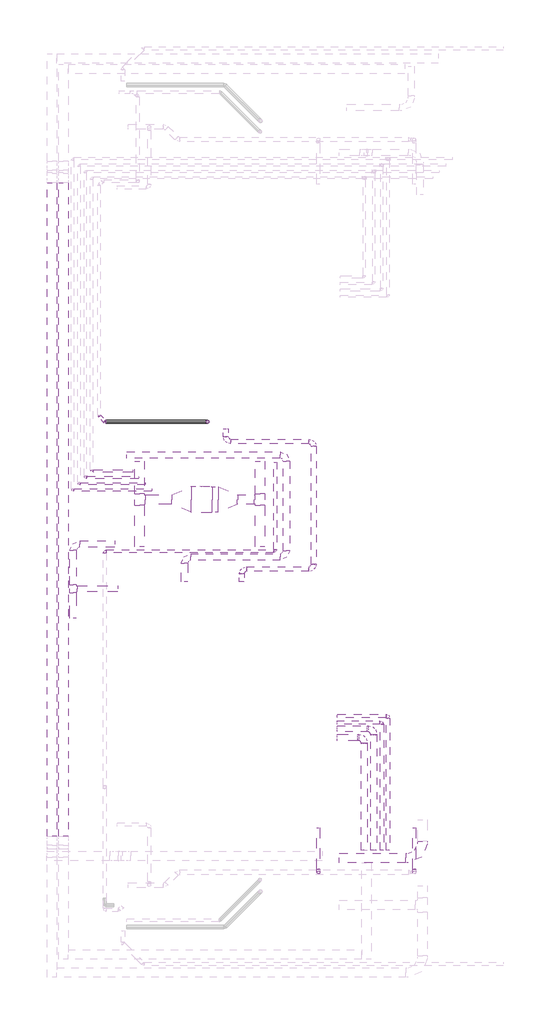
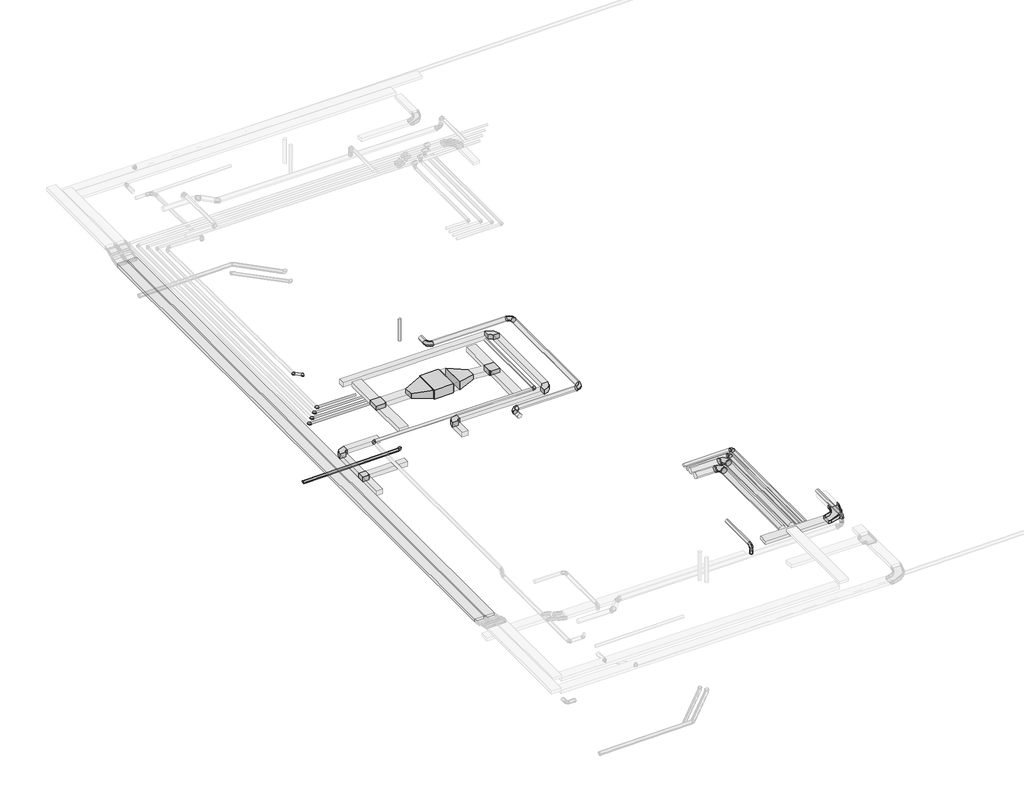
# One storey, part 2 of 4: 24 duct segments, 17 pipe segments, 16 duct fittings, 13 pipe fittings, 3 cable carrier segments, 1 cable carrier fitting, 1 proxy.
"""IFC4 building model written with IfcOpenShell, lengths in millimetres."""

from ifc_helpers import new_model, si_unit, point, frame, frame_2d, origin, place, context, project, spatial, polyline, circle_curve, trimmed, segment, composite_curve, outline, extrude, transform, mapped, element, save
from components import fc01_db58e849, m_codo_horizontal_de_canal_el_5b0e7b07, duct_fitting_e8ecb067, duct_fitting_4802cc83, apt_33348139, ext_db029bdf, ext_95de42ea, m_codo_rectangular_radio_apt_1_w_a605e9b7, m_codo_redondo_ext_1_d_fe658834, m_codo_redondo_ext_1_d_96ea52f9, pipe_fitting_7b861d32, pipe_fitting_a8c499ec, pipe_fitting_f5d6ed74, pipe_fitting_3b77712d, pipe_fitting_2358b14d, pipe_fitting_3a68447e, pipe_fitting_87aeffad

model = new_model("IFC4")

# Units and contexts
model_context = context("Model", 3, world=origin())
ifc_project = project(units=[si_unit("LENGTHUNIT", "METRE", prefix="MILLI")], contexts=[model_context])

# Site, building, storey
site = spatial("IfcSite", under=ifc_project)
building = spatial("IfcBuilding", under=site)
storey = spatial("IfcBuildingStorey", under=building, Name="Nivell 05 P05_PP", Elevation=26160.0)

# Proxy
placement = place(None, origin())
fc01_shape = fc01_db58e849(model_context)
element("IfcBuildingElementProxy", 1, Name="ARC_MDL_ME_UI_FC_ConducteSostre : FC01", ObjectType="ARC_MDL_ME_UI_FC_ConducteSostre : FC01", at=placement, inside=storey, context=model_context, shape_type="MappedRepresentation", body=[
    mapped(fc01_shape, transform((9681.3112506, -4290.0827616, 29269.6198525), x_axis=(-5.108879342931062e-05, -0.9999999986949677, 0.0), y_axis=(0.9999999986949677, -5.108879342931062e-05, 0.0), z_axis=(0.0, 0.0, 1.0))),
])

# Cable carrier fitting
m_codo_horizontal_de_canal_el_shape = m_codo_horizontal_de_canal_el_5b0e7b07(model_context)
element("IfcCableCarrierFitting", 2, ObjectType="M_Codo horizontal de canal : EL", at=placement, inside=storey, context=model_context, shape_type="MappedRepresentation", body=[
    mapped(m_codo_horizontal_de_canal_el_shape, transform((16614.6624278, -15521.1304394, 29260.0), x_axis=(1.0, 0.0, 0.0), y_axis=(0.0, 1.0, 0.0), z_axis=(0.0, 0.0, 1.0))),
])

# Cable carrier segments
element("IfcCableCarrierSegment", 3, ObjectType="EL", at=placement, inside=storey, context=model_context, shape_type="SweptSolid", body=[
    extrude(outline(polyline([(16089.6624278, -15371.1304394), (16089.6624278, -15671.1304394), (14011.0671065, -15671.1304394), (14011.0671065, -15371.1304394), (16089.6624278, -15371.1304394)])), frame((0.0, 0.0, 29210.0), z_axis=(0.0, 0.0, 1.0), x_axis=(1.0, 0.0, 0.0)), (0.0, 0.0, 1.0), 100.0),
])
element("IfcCableCarrierSegment", 4, ObjectType="EL", at=placement, inside=storey, context=model_context, shape_type="SweptSolid", body=[
    extrude(outline(polyline([(5507.0671065, -14848.6486184), (5207.0671065, -14848.6486184), (5207.0671065, 5634.423571), (5507.0671065, 5634.423571), (5507.0671065, -14848.6486184)])), frame((0.0, 0.0, 29210.0), z_axis=(0.0, 0.0, 1.0), x_axis=(1.0, 0.0, 0.0)), (0.0, 0.0, 1.0), 100.0),
])
element("IfcCableCarrierSegment", 5, ObjectType="EL", at=placement, inside=storey, context=model_context, shape_type="SweptSolid", body=[
    extrude(outline(polyline([(4858.2381883, 5634.423571), (5158.2381883, 5634.423571), (5158.2381883, -14848.6486184), (4858.2381883, -14848.6486184), (4858.2381883, 5634.423571)])), frame((0.0, 0.0, 29210.0), z_axis=(0.0, 0.0, 1.0), x_axis=(1.0, 0.0, 0.0)), (0.0, 0.0, 1.0), 100.0),
])

# Duct fittings
duct_fitting_shape = duct_fitting_e8ecb067(model_context)
element("IfcDuctFitting", 6, ObjectType="M_Transición rectangular - Ángulo : EXT_45 graus", at=placement, inside=storey, context=model_context, shape_type="MappedRepresentation", body=[
    mapped(duct_fitting_shape, transform((9366.311258, -4289.9287549, 29427.1198525), x_axis=(-0.9999999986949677, 5.108879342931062e-05, 0.0), y_axis=(-5.108879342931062e-05, -0.9999999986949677, 0.0), z_axis=(0.0, 0.0, 1.0))),
])
duct_fitting_2_shape = duct_fitting_4802cc83(model_context)
element("IfcDuctFitting", 7, ObjectType="M_Transición rectangular - Ángulo : EXT_45 graus", at=placement, inside=storey, context=model_context, shape_type="MappedRepresentation", body=[
    mapped(duct_fitting_2_shape, transform((10216.57728, -4290.2068024, 29427.1198525), x_axis=(0.9999999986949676, -5.1088793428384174e-05, 0.0), y_axis=(5.1088793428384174e-05, 0.9999999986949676, 0.0), z_axis=(0.0, 0.0, 1.0))),
])
apt_shape = apt_33348139(model_context)
element("IfcDuctFitting", 8, ObjectType="M_Te rectangular : APT", at=placement, inside=storey, context=model_context, shape_type="MappedRepresentation", body=[
    mapped(apt_shape, transform((5665.7790997, -7084.7059364, 29310.0), x_axis=(0.0, 1.0, 0.0), y_axis=(-1.0, 0.0, 0.0), z_axis=(0.0, 0.0, 1.0))),
])
ext_shape = ext_db029bdf(model_context)
element("IfcDuctFitting", 9, ObjectType="M_Toma de derivación redonda : EXT", at=placement, inside=storey, context=model_context, shape_type="MappedRepresentation", body=[
    mapped(ext_shape, transform((13350.5896993, -15972.9719502, 29340.0), x_axis=(0.0, 0.0, 1.0), y_axis=(-1.0, 0.0, 0.0), z_axis=(0.0, -1.0, 0.0))),
])
ext_2_shape = ext_95de42ea(model_context)
element("IfcDuctFitting", 10, ObjectType="M_Te rectangular : EXT", at=placement, inside=storey, context=model_context, shape_type="MappedRepresentation", body=[
    mapped(ext_2_shape, transform((11523.311255, -4289.9524808, 29325.8305344), x_axis=(0.0, -1.0, 0.0), y_axis=(1.0, 0.0, 0.0), z_axis=(0.0, 0.0, 1.0))),
])
element("IfcDuctFitting", 11, ObjectType="M_Te rectangular : EXT", at=placement, inside=storey, context=model_context, shape_type="MappedRepresentation", body=[
    mapped(ext_2_shape, transform((7746.1618177, -4289.990201, 29427.1198525), x_axis=(0.0, 1.0, 0.0), y_axis=(-1.0, 0.0, 0.0), z_axis=(0.0, 0.0, 1.0))),
])
m_codo_rectangular_radio_apt_1_w_shape = m_codo_rectangular_radio_apt_1_w_a605e9b7(model_context)
element("IfcDuctFitting", 12, ObjectType="M_Codo rectangular - Radio : APT_1 W", at=placement, inside=storey, context=model_context, shape_type="MappedRepresentation", body=[
    mapped(m_codo_rectangular_radio_apt_1_w_shape, transform((5665.7790997, -5684.7059364, 29310.0), x_axis=(-1.0, 0.0, 0.0), y_axis=(0.0, -1.0, 0.0), z_axis=(0.0, 0.0, 1.0))),
])
element("IfcDuctFitting", 13, ObjectType="M_Codo rectangular - Radio : EXT_1 W", at=placement, inside=storey, context=model_context, shape_type="MappedRepresentation", body=[
    mapped(m_codo_rectangular_radio_apt_1_w_shape, transform((12351.1206995, -6088.8306037, 29435.0), x_axis=(1.0, 0.0, 0.0), y_axis=(0.0, 1.0, 0.0), z_axis=(0.0, 0.0, 1.0))),
])
element("IfcDuctFitting", 14, ObjectType="M_Codo rectangular - Radio : EXT_1 W", at=placement, inside=storey, context=model_context, shape_type="MappedRepresentation", body=[
    mapped(m_codo_rectangular_radio_apt_1_w_shape, transform((9151.1206995, -6088.8306037, 29435.0), x_axis=(-1.0, 0.0, 0.0), y_axis=(0.0, -1.0, 0.0), z_axis=(0.0, 0.0, 1.0))),
])
element("IfcDuctFitting", 15, ObjectType="M_Codo rectangular - Radio : EXT_1 W", at=placement, inside=storey, context=model_context, shape_type="MappedRepresentation", body=[
    mapped(m_codo_rectangular_radio_apt_1_w_shape, transform((12351.1206995, -2888.8306037, 29435.0), x_axis=(0.0, 1.0, 0.0), y_axis=(-1.0, 0.0, 0.0), z_axis=(0.0, 0.0, 1.0))),
])
m_codo_redondo_ext_1_d_shape = m_codo_redondo_ext_1_d_fe658834(model_context)
element("IfcDuctFitting", 16, ObjectType="M_Codo redondo : EXT_1 D", at=placement, inside=storey, context=model_context, shape_type="MappedRepresentation", body=[
    mapped(m_codo_redondo_ext_1_d_shape, transform((10951.1206995, -6468.8306037, 29435.0), x_axis=(-1.0, 0.0, 0.0), y_axis=(0.0, -1.0, 0.0), z_axis=(0.0, 0.0, 1.0))),
])
element("IfcDuctFitting", 17, ObjectType="M_Codo redondo : EXT_1 D", at=placement, inside=storey, context=model_context, shape_type="MappedRepresentation", body=[
    mapped(m_codo_redondo_ext_1_d_shape, transform((13201.1206995, -6468.8306037, 29435.0), x_axis=(1.0, 0.0, 0.0), y_axis=(0.0, 1.0, 0.0), z_axis=(0.0, 0.0, 1.0))),
])
element("IfcDuctFitting", 18, ObjectType="M_Codo redondo : EXT_1 D", at=placement, inside=storey, context=model_context, shape_type="MappedRepresentation", body=[
    mapped(m_codo_redondo_ext_1_d_shape, transform((13201.1206995, -2468.8306037, 29435.0), x_axis=(0.0, 1.0, 0.0), y_axis=(-1.0, 0.0, 0.0), z_axis=(0.0, 0.0, 1.0))),
])
element("IfcDuctFitting", 19, ObjectType="M_Codo redondo : EXT_1 D", at=placement, inside=storey, context=model_context, shape_type="MappedRepresentation", body=[
    mapped(m_codo_redondo_ext_1_d_shape, transform((10451.1206995, -2468.8306037, 29435.0), x_axis=(0.0, -1.0, 0.0), y_axis=(1.0, 0.0, 0.0), z_axis=(0.0, 0.0, 1.0))),
])
m_codo_redondo_ext_1_d_2_shape = m_codo_redondo_ext_1_d_96ea52f9(model_context)
element("IfcDuctFitting", 20, ObjectType="M_Codo redondo : EXT_1 D", at=placement, inside=storey, context=model_context, shape_type="MappedRepresentation", body=[
    mapped(m_codo_redondo_ext_1_d_2_shape, transform((16350.5896993, -15972.9719502, 29610.0), x_axis=(0.0, -1.0, 0.0), y_axis=(0.0, 0.0, 1.0), z_axis=(-1.0, 0.0, 0.0))),
])
element("IfcDuctFitting", 21, ObjectType="M_Codo redondo : EXT_1 D", at=placement, inside=storey, context=model_context, shape_type="MappedRepresentation", body=[
    mapped(m_codo_redondo_ext_1_d_2_shape, transform((13350.5896993, -15972.9719502, 29610.0), x_axis=(0.0, -1.0, 0.0), y_axis=(0.0, 0.0, 1.0), z_axis=(-1.0, 0.0, 0.0))),
])

# Duct segments
element("IfcDuctSegment", 22, ObjectType="APT_Fibra de vidre rígida", at=placement, inside=storey, context=model_context, shape_type="SweptSolid", body=[
    extrude(outline(polyline([(7065.7790997, -6984.7059364), (7065.7790997, -7184.7059364), (5790.7790997, -7184.7059364), (5790.7790997, -6984.7059364), (7065.7790997, -6984.7059364)])), frame((0.0, 0.0, 29235.0), z_axis=(0.0, 0.0, 1.0), x_axis=(1.0, 0.0, 0.0)), (0.0, 0.0, 1.0), 150.0),
])
element("IfcDuctSegment", 23, ObjectType="APT_Fibra de vidre rígida", at=placement, inside=storey, context=model_context, shape_type="SweptSolid", body=[
    extrude(outline(polyline([(5765.7790997, -6959.7059364), (5565.7790997, -6959.7059364), (5565.7790997, -5884.7059364), (5765.7790997, -5884.7059364), (5765.7790997, -6959.7059364)])), frame((0.0, 0.0, 29235.0), z_axis=(0.0, 0.0, 1.0), x_axis=(1.0, 0.0, 0.0)), (0.0, 0.0, 1.0), 150.0),
])
element("IfcDuctSegment", 24, ObjectType="APT_Fibra de vidre rígida", at=placement, inside=storey, context=model_context, shape_type="SweptSolid", body=[
    extrude(outline(polyline([(5865.7790997, -5784.7059364), (5865.7790997, -5584.7059364), (6965.7790997, -5584.7059364), (6965.7790997, -5784.7059364), (5865.7790997, -5784.7059364)])), frame((0.0, 0.0, 29235.0), z_axis=(0.0, 0.0, 1.0), x_axis=(1.0, 0.0, 0.0)), (0.0, 0.0, 1.0), 150.0),
])
element("IfcDuctSegment", 25, ObjectType="APT_Fibra de vidre rígida", at=placement, inside=storey, context=model_context, shape_type="SweptSolid", body=[
    extrude(outline(polyline([(5565.7790997, -7209.7059364), (5765.7790997, -7209.7059364), (5765.7790997, -8009.7059364), (5565.7790997, -8009.7059364), (5565.7790997, -7209.7059364)])), frame((0.0, 0.0, 29235.0), z_axis=(0.0, 0.0, 1.0), x_axis=(1.0, 0.0, 0.0)), (0.0, 0.0, 1.0), 150.0),
])
element("IfcDuctSegment", 26, ObjectType="EXT_Fibra de vidre rígida", at=placement, inside=storey, context=model_context, shape_type="SweptSolid", body=[
    extrude(outline(polyline([(9351.1206995, -6188.8306037), (9351.1206995, -5988.8306037), (12151.1206995, -5988.8306037), (12151.1206995, -6188.8306037), (9351.1206995, -6188.8306037)])), frame((0.0, 0.0, 29360.0), z_axis=(0.0, 0.0, 1.0), x_axis=(1.0, 0.0, 0.0)), (0.0, 0.0, 1.0), 150.0),
])
element("IfcDuctSegment", 27, ObjectType="EXT_Fibra de vidre rígida", at=placement, inside=storey, context=model_context, shape_type="SweptSolid", body=[
    extrude(outline(polyline([(12251.1206995, -3088.8306037), (12451.1206995, -3088.8306037), (12451.1206995, -5888.8306037), (12251.1206995, -5888.8306037), (12251.1206995, -3088.8306037)])), frame((0.0, 0.0, 29360.0), z_axis=(0.0, 0.0, 1.0), x_axis=(1.0, 0.0, 0.0)), (0.0, 0.0, 1.0), 150.0),
])
element("IfcDuctSegment", 28, ObjectType="EXT_Fibra de vidre rígida", at=placement, inside=storey, context=model_context, shape_type="SweptSolid", body=[
    extrude(outline(polyline([(9251.1206995, -6868.8306037), (9051.1206995, -6868.8306037), (9051.1206995, -6288.8306037), (9251.1206995, -6288.8306037), (9251.1206995, -6868.8306037)])), frame((0.0, 0.0, 29360.0), z_axis=(0.0, 0.0, 1.0), x_axis=(1.0, 0.0, 0.0)), (0.0, 0.0, 1.0), 150.0),
])
element("IfcDuctSegment", 29, ObjectType="EXT_Fibra de vidre rígida", at=placement, inside=storey, context=model_context, shape_type="SweptSolid", body=[
    extrude(outline(polyline([(7351.1206995, -2988.8306037), (7351.1206995, -2788.8306037), (12151.1206995, -2788.8306037), (12151.1206995, -2988.8306037), (7351.1206995, -2988.8306037)])), frame((0.0, 0.0, 29360.0), z_axis=(0.0, 0.0, 1.0), x_axis=(1.0, 0.0, 0.0)), (0.0, 0.0, 1.0), 150.0),
])
element("IfcDuctSegment", 30, ObjectType="EXT_Acer Galvanitzat - Rígid", at=placement, inside=storey, context=model_context, shape_type="SweptSolid", body=[
    extrude(outline(composite_curve([segment(trimmed(circle_curve(frame_2d((29435.0, 10951.1206995)), 75.0), [point((29435.0, 11026.1206995))], [point((29510.0, 10951.1206995))], False, "CARTESIAN"), True, "CONTINUOUS"), segment(trimmed(circle_curve(frame_2d((29435.0, 10951.1206995)), 75.0), [point((29510.0, 10951.1206995))], [point((29435.0, 10876.1206995))], False, "CARTESIAN"), True, "CONTINUOUS"), segment(trimmed(circle_curve(frame_2d((29435.0, 10951.1206995)), 75.0), [point((29435.0, 10876.1206995))], [point((29360.0, 10951.1206995))], False, "CARTESIAN"), True, "CONTINUOUS"), segment(trimmed(circle_curve(frame_2d((29435.0, 10951.1206995)), 75.0), [point((29360.0, 10951.1206995))], [point((29435.0, 11026.1206995))], False, "CARTESIAN"), True, "CONTINUOUS")], self_intersect=False)), frame((0.0, -6868.8306037, 0.0), z_axis=(0.0, 1.0, 0.0), x_axis=(0.0, 0.0, 1.0)), (0.0, 0.0, 1.0), 250.0),
])
element("IfcDuctSegment", 31, ObjectType="EXT_Acer Galvanitzat - Rígid", at=placement, inside=storey, context=model_context, shape_type="SweptSolid", body=[
    extrude(outline(composite_curve([segment(trimmed(circle_curve(frame_2d((-6468.8306037, 29435.0)), 75.0), [point((-6543.8306037, 29435.0))], [point((-6468.8306037, 29510.0))], False, "CARTESIAN"), True, "CONTINUOUS"), segment(trimmed(circle_curve(frame_2d((-6468.8306037, 29435.0)), 75.0), [point((-6468.8306037, 29510.0))], [point((-6393.8306037, 29435.0))], False, "CARTESIAN"), True, "CONTINUOUS"), segment(trimmed(circle_curve(frame_2d((-6468.8306037, 29435.0)), 75.0), [point((-6393.8306037, 29435.0))], [point((-6468.8306037, 29360.0))], False, "CARTESIAN"), True, "CONTINUOUS"), segment(trimmed(circle_curve(frame_2d((-6468.8306037, 29435.0)), 75.0), [point((-6468.8306037, 29360.0))], [point((-6543.8306037, 29435.0))], False, "CARTESIAN"), True, "CONTINUOUS")], self_intersect=False)), frame((11101.1206995, 0.0, 0.0), z_axis=(1.0, 0.0, 0.0), x_axis=(0.0, 1.0, 0.0)), (0.0, 0.0, 1.0), 1950.0),
])
element("IfcDuctSegment", 32, ObjectType="EXT_Acer Galvanitzat - Rígid", at=placement, inside=storey, context=model_context, shape_type="SweptSolid", body=[
    extrude(outline(composite_curve([segment(trimmed(circle_curve(frame_2d((29435.0, 13201.1206995)), 75.0), [point((29435.0, 13276.1206995))], [point((29510.0, 13201.1206995))], False, "CARTESIAN"), True, "CONTINUOUS"), segment(trimmed(circle_curve(frame_2d((29435.0, 13201.1206995)), 75.0), [point((29510.0, 13201.1206995))], [point((29435.0, 13126.1206995))], False, "CARTESIAN"), True, "CONTINUOUS"), segment(trimmed(circle_curve(frame_2d((29435.0, 13201.1206995)), 75.0), [point((29435.0, 13126.1206995))], [point((29360.0, 13201.1206995))], False, "CARTESIAN"), True, "CONTINUOUS"), segment(trimmed(circle_curve(frame_2d((29435.0, 13201.1206995)), 75.0), [point((29360.0, 13201.1206995))], [point((29435.0, 13276.1206995))], False, "CARTESIAN"), True, "CONTINUOUS")], self_intersect=False)), frame((0.0, -6318.8306037, 0.0), z_axis=(0.0, 1.0, 0.0), x_axis=(0.0, 0.0, 1.0)), (0.0, 0.0, 1.0), 3700.0),
])
element("IfcDuctSegment", 33, ObjectType="EXT_Acer Galvanitzat - Rígid", at=placement, inside=storey, context=model_context, shape_type="SweptSolid", body=[
    extrude(outline(composite_curve([segment(trimmed(circle_curve(frame_2d((-2468.8306037, 29435.0)), 75.0), [point((-2393.8306037, 29435.0))], [point((-2468.8306037, 29360.0))], False, "CARTESIAN"), True, "CONTINUOUS"), segment(trimmed(circle_curve(frame_2d((-2468.8306037, 29435.0)), 75.0), [point((-2468.8306037, 29360.0))], [point((-2543.8306037, 29435.0))], False, "CARTESIAN"), True, "CONTINUOUS"), segment(trimmed(circle_curve(frame_2d((-2468.8306037, 29435.0)), 75.0), [point((-2543.8306037, 29435.0))], [point((-2468.8306037, 29510.0))], False, "CARTESIAN"), True, "CONTINUOUS"), segment(trimmed(circle_curve(frame_2d((-2468.8306037, 29435.0)), 75.0), [point((-2468.8306037, 29510.0))], [point((-2393.8306037, 29435.0))], False, "CARTESIAN"), True, "CONTINUOUS")], self_intersect=False)), frame((10601.1206995, 0.0, 0.0), z_axis=(1.0, 0.0, 0.0), x_axis=(0.0, 1.0, 0.0)), (0.0, 0.0, 1.0), 2450.0),
])
element("IfcDuctSegment", 34, ObjectType="EXT_Acer Galvanitzat - Rígid", at=placement, inside=storey, context=model_context, shape_type="SweptSolid", body=[
    extrude(outline(composite_curve([segment(trimmed(circle_curve(frame_2d((29435.0, 10451.1206995)), 75.0), [point((29435.0, 10526.1206995))], [point((29510.0, 10451.1206995))], False, "CARTESIAN"), True, "CONTINUOUS"), segment(trimmed(circle_curve(frame_2d((29435.0, 10451.1206995)), 75.0), [point((29510.0, 10451.1206995))], [point((29435.0, 10376.1206995))], False, "CARTESIAN"), True, "CONTINUOUS"), segment(trimmed(circle_curve(frame_2d((29435.0, 10451.1206995)), 75.0), [point((29435.0, 10376.1206995))], [point((29360.0, 10451.1206995))], False, "CARTESIAN"), True, "CONTINUOUS"), segment(trimmed(circle_curve(frame_2d((29435.0, 10451.1206995)), 75.0), [point((29360.0, 10451.1206995))], [point((29435.0, 10526.1206995))], False, "CARTESIAN"), True, "CONTINUOUS")], self_intersect=False)), frame((0.0, -2318.8306037, 0.0), z_axis=(0.0, 1.0, 0.0), x_axis=(0.0, 0.0, 1.0)), (0.0, 0.0, 1.0), 250.0),
])
element("IfcDuctSegment", 35, ObjectType="EXT_Acer Galvanitzat - Rígid", at=placement, inside=storey, context=model_context, shape_type="SweptSolid", body=[
    extrude(outline(composite_curve([segment(trimmed(circle_curve(frame_2d((29610.0, 13350.5896993)), 50.0), [point((29610.0, 13400.5896993))], [point((29660.0, 13350.5896993))], False, "CARTESIAN"), True, "CONTINUOUS"), segment(trimmed(circle_curve(frame_2d((29610.0, 13350.5896993)), 50.0), [point((29660.0, 13350.5896993))], [point((29610.0, 13300.5896993))], False, "CARTESIAN"), True, "CONTINUOUS"), segment(trimmed(circle_curve(frame_2d((29610.0, 13350.5896993)), 50.0), [point((29610.0, 13300.5896993))], [point((29560.0, 13350.5896993))], False, "CARTESIAN"), True, "CONTINUOUS"), segment(trimmed(circle_curve(frame_2d((29610.0, 13350.5896993)), 50.0), [point((29560.0, 13350.5896993))], [point((29610.0, 13400.5896993))], False, "CARTESIAN"), True, "CONTINUOUS")], self_intersect=False)), frame((0.0, -15872.9719502, 0.0), z_axis=(0.0, 1.0, 0.0), x_axis=(0.0, 0.0, 1.0)), (0.0, 0.0, 1.0), 1301.48805),
])
element("IfcDuctSegment", 36, ObjectType="EXT_Acer Galvanitzat - Rígid", at=placement, inside=storey, context=model_context, shape_type="SweptSolid", body=[
    extrude(outline(composite_curve([segment(trimmed(circle_curve(frame_2d((13350.5896993, -15972.9719502)), 50.0), [point((13300.5896993, -15972.9719502))], [point((13350.5896993, -15922.9719502))], False, "CARTESIAN"), True, "CONTINUOUS"), segment(trimmed(circle_curve(frame_2d((13350.5896993, -15972.9719502)), 50.0), [point((13350.5896993, -15922.9719502))], [point((13400.5896993, -15972.9719502))], False, "CARTESIAN"), True, "CONTINUOUS"), segment(trimmed(circle_curve(frame_2d((13350.5896993, -15972.9719502)), 50.0), [point((13400.5896993, -15972.9719502))], [point((13350.5896993, -16022.9719502))], False, "CARTESIAN"), True, "CONTINUOUS"), segment(trimmed(circle_curve(frame_2d((13350.5896993, -15972.9719502)), 50.0), [point((13350.5896993, -16022.9719502))], [point((13300.5896993, -15972.9719502))], False, "CARTESIAN"), True, "CONTINUOUS")], self_intersect=False)), frame((0.0, 0.0, 29441.6), z_axis=(0.0, 0.0, 1.0), x_axis=(1.0, 0.0, 0.0)), (0.0, 0.0, 1.0), 68.4),
])
element("IfcDuctSegment", 37, ObjectType="EXT_Acer Galvanitzat - Rígid", at=placement, inside=storey, context=model_context, shape_type="SweptSolid", body=[
    extrude(outline(composite_curve([segment(trimmed(circle_curve(frame_2d((29610.0, 16350.5896993)), 50.0), [point((29610.0, 16400.5896993))], [point((29660.0, 16350.5896993))], False, "CARTESIAN"), True, "CONTINUOUS"), segment(trimmed(circle_curve(frame_2d((29610.0, 16350.5896993)), 50.0), [point((29660.0, 16350.5896993))], [point((29610.0, 16300.5896993))], False, "CARTESIAN"), True, "CONTINUOUS"), segment(trimmed(circle_curve(frame_2d((29610.0, 16350.5896993)), 50.0), [point((29610.0, 16300.5896993))], [point((29560.0, 16350.5896993))], False, "CARTESIAN"), True, "CONTINUOUS"), segment(trimmed(circle_curve(frame_2d((29610.0, 16350.5896993)), 50.0), [point((29560.0, 16350.5896993))], [point((29610.0, 16400.5896993))], False, "CARTESIAN"), True, "CONTINUOUS")], self_intersect=False)), frame((0.0, -15872.9719502, 0.0), z_axis=(0.0, 1.0, 0.0), x_axis=(0.0, 0.0, 1.0)), (0.0, 0.0, 1.0), 1301.48805),
])
element("IfcDuctSegment", 38, ObjectType="EXT_Acer Galvanitzat - Rígid", at=placement, inside=storey, context=model_context, shape_type="SweptSolid", body=[
    extrude(outline(composite_curve([segment(trimmed(circle_curve(frame_2d((16350.5896993, -15972.9719502)), 50.0), [point((16400.5896993, -15972.9719502))], [point((16350.5896993, -16022.9719502))], False, "CARTESIAN"), True, "CONTINUOUS"), segment(trimmed(circle_curve(frame_2d((16350.5896993, -15972.9719502)), 50.0), [point((16350.5896993, -16022.9719502))], [point((16300.5896993, -15972.9719502))], False, "CARTESIAN"), True, "CONTINUOUS"), segment(trimmed(circle_curve(frame_2d((16350.5896993, -15972.9719502)), 50.0), [point((16300.5896993, -15972.9719502))], [point((16350.5896993, -15922.9719502))], False, "CARTESIAN"), True, "CONTINUOUS"), segment(trimmed(circle_curve(frame_2d((16350.5896993, -15972.9719502)), 50.0), [point((16350.5896993, -15922.9719502))], [point((16400.5896993, -15972.9719502))], False, "CARTESIAN"), True, "CONTINUOUS")], self_intersect=False)), frame((0.0, 0.0, 29365.0), z_axis=(0.0, 0.0, 1.0), x_axis=(1.0, 0.0, 0.0)), (0.0, 0.0, 1.0), 145.0),
])
element("IfcDuctSegment", 39, ObjectType="EXT_Planxa galvanitzada", at=placement, inside=storey, context=model_context, shape_type="SweptSolid", body=[
    extrude(outline(polyline([(7921.1541547, -4439.9850919), (7921.1694813, -4139.9850923), (8762.765525, -4140.0280884), (8762.7501984, -4440.028088), (7921.1541547, -4439.9850919)])), frame((0.0, 0.0, 29352.1198525), z_axis=(0.0, 0.0, 1.0), x_axis=(1.0, 0.0, 0.0)), (0.0, 0.0, 1.0), 150.0),
])
element("IfcDuctSegment", 40, ObjectType="EXT_Planxa galvanitzada", at=placement, inside=storey, context=model_context, shape_type="SweptSolid", body=[
    extrude(outline(polyline([(0.0, -300.0000001), (0.0, 0.0), (530.6650356, 0.0), (530.6650356, -300.0000001), (0.0, -300.0000001)])), frame((11341.1284595, -4439.9556573, 29251.1816596), z_axis=(0.09665101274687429, 4.254610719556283e-05, 0.9953183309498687), x_axis=(-0.9953182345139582, -0.00043814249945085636, 0.09665102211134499)), (0.0, 0.0, 1.0), 150.0),
])
element("IfcDuctSegment", 41, ObjectType="EXT_Planxa galvanitzada", at=placement, inside=storey, context=model_context, shape_type="SweptSolid", body=[
    extrude(outline(polyline([(11673.311255, -4114.9524808), (11373.311255, -4114.9524808), (11373.311255, -3089.9878585), (11673.311255, -3089.9878585), (11673.311255, -4114.9524808)])), frame((0.0, 0.0, 29250.8305344), z_axis=(0.0, 0.0, 1.0), x_axis=(1.0, 0.0, 0.0)), (0.0, 0.0, 1.0), 150.0),
])
element("IfcDuctSegment", 42, ObjectType="EXT_Planxa galvanitzada", at=placement, inside=storey, context=model_context, shape_type="SweptSolid", body=[
    extrude(outline(polyline([(11373.311255, -4464.9524808), (11673.311255, -4464.9524808), (11673.311255, -5765.0566725), (11373.311255, -5765.0566725), (11373.311255, -4464.9524808)])), frame((0.0, 0.0, 29250.8305344), z_axis=(0.0, 0.0, 1.0), x_axis=(1.0, 0.0, 0.0)), (0.0, 0.0, 1.0), 150.0),
])
element("IfcDuctSegment", 43, ObjectType="EXT_Planxa galvanitzada", at=placement, inside=storey, context=model_context, shape_type="SweptSolid", body=[
    extrude(outline(polyline([(7896.1618177, -4114.9902017), (7596.1618177, -4114.9902002), (7596.1618227, -3089.9878578), (7896.1618227, -3089.9878592), (7896.1618177, -4114.9902017)])), frame((0.0, 0.0, 29352.1198525), z_axis=(0.0, 0.0, 1.0), x_axis=(1.0, 0.0, 0.0)), (0.0, 0.0, 1.0), 150.0),
])
element("IfcDuctSegment", 44, ObjectType="EXT_Planxa galvanitzada", at=placement, inside=storey, context=model_context, shape_type="SweptSolid", body=[
    extrude(outline(polyline([(7596.1618177, -4464.9902015), (7896.1618177, -4464.9902004), (7896.1618227, -5765.056672), (7596.1618227, -5765.0566731), (7596.1618177, -4464.9902015)])), frame((0.0, 0.0, 29352.1198525), z_axis=(0.0, 0.0, 1.0), x_axis=(1.0, 0.0, 0.0)), (0.0, 0.0, 1.0), 150.0),
])
element("IfcDuctSegment", 45, ObjectType="EXT_Planxa galvanitzada", at=placement, inside=storey, context=model_context, shape_type="SweptSolid", body=[
    extrude(outline(polyline([(10023.2908097, -4690.1969281), (10023.3316807, -3890.1969292), (10216.5977155, -3890.2068029), (10216.5568445, -4690.2068019), (10023.2908097, -4690.1969281)])), frame((0.0, 0.0, 29289.6198525), z_axis=(0.0, 0.0, 1.0), x_axis=(1.0, 0.0, 0.0)), (0.0, 0.0, 1.0), 275.0),
])

# Pipe fittings
pipe_fitting_shape = pipe_fitting_7b861d32(model_context)
element("IfcPipeFitting", 46, ObjectType="M_Codo - Genérico : Estándar", at=placement, inside=storey, context=model_context, shape_type="MappedRepresentation", body=[
    mapped(pipe_fitting_shape, transform((6477.6345979, -1666.8281442, 29329.3801167), x_axis=(0.0, -0.9999500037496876, 0.00999950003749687), y_axis=(0.9999914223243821, 4.1416859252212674e-05, 0.004141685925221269), z_axis=(-0.004141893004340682, 0.009999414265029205, 0.9999414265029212))),
])
pipe_fitting_2_shape = pipe_fitting_a8c499ec(model_context)
element("IfcPipeFitting", 47, ObjectType="M_Codo - Genérico : Estándar", at=placement, inside=storey, context=model_context, shape_type="MappedRepresentation", body=[
    mapped(pipe_fitting_2_shape, transform((9883.1603089, -1851.9887948, 25614.2030013), x_axis=(0.9999500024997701, 4.9997101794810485e-05, 0.009999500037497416), y_axis=(-0.009999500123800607, 1.476482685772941e-06, 0.9999500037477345), z_axis=(4.997983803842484e-05, -0.9999999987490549, 1.976354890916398e-06))),
])
pipe_fitting_3_shape = pipe_fitting_f5d6ed74(model_context)
element("IfcPipeFitting", 48, ObjectType="M_Codo - Genérico : Estándar", at=placement, inside=storey, context=model_context, shape_type="MappedRepresentation", body=[
    mapped(pipe_fitting_3_shape, transform((6662.9562575, -1852.1498037, 29332.0009608), x_axis=(0.707071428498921, -0.7070714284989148, 0.00999950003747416), y_axis=(0.7070714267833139, 0.7071300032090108, 0.004141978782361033), z_axis=(-0.009999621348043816, 0.004141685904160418, 0.9999414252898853))),
])
pipe_fitting_4_shape = pipe_fitting_3b77712d(model_context)
element("IfcPipeFitting", 49, ObjectType="M_Codo - Genérico : Estándar", at=placement, inside=storey, context=model_context, shape_type="MappedRepresentation", body=[
    mapped(pipe_fitting_4_shape, transform((15537.4352568, -11073.2087902, 29215.0), x_axis=(1.0, 0.0, 0.0), y_axis=(0.0, 1.0, 0.0), z_axis=(0.0, 0.0, 1.0))),
])
element("IfcPipeFitting", 50, ObjectType="M_Codo - Genérico : Estándar", at=placement, inside=storey, context=model_context, shape_type="MappedRepresentation", body=[
    mapped(pipe_fitting_4_shape, transform((15337.4352568, -11273.2087902, 29215.0), x_axis=(1.0, 0.0, 0.0), y_axis=(0.0, 1.0, 0.0), z_axis=(0.0, 0.0, 1.0))),
])
pipe_fitting_5_shape = pipe_fitting_2358b14d(model_context)
element("IfcPipeFitting", 51, ObjectType="Codo 90º Soldadura a Tope SDR 11 BluePipe : Estándar", at=placement, inside=storey, context=model_context, shape_type="MappedRepresentation", body=[
    mapped(pipe_fitting_5_shape, transform((14787.4352568, -11743.2087902, 29260.0), x_axis=(1.0, 0.0, 0.0), y_axis=(0.0, 1.0, 0.0), z_axis=(0.0, 0.0, 1.0))),
])
element("IfcPipeFitting", 52, ObjectType="Codo 90º Soldadura a Tope SDR 11 BluePipe : Estándar", at=placement, inside=storey, context=model_context, shape_type="MappedRepresentation", body=[
    mapped(pipe_fitting_5_shape, transform((15087.4352568, -11473.2087902, 29260.0), x_axis=(1.0, 0.0, 0.0), y_axis=(0.0, 1.0, 0.0), z_axis=(0.0, 0.0, 1.0))),
])
pipe_fitting_6_shape = pipe_fitting_3a68447e(model_context)
element("IfcPipeFitting", 53, ObjectType="M_Codo - Genérico : Estándar", at=placement, inside=storey, context=model_context, shape_type="MappedRepresentation", body=[
    mapped(pipe_fitting_6_shape, transform((6245.7381883, -3394.9253722, 29272.5), x_axis=(0.0, -1.0, 0.0), y_axis=(1.0, 0.0, 0.0), z_axis=(0.0, 0.0, 1.0))),
])
element("IfcPipeFitting", 54, ObjectType="M_Codo - Genérico : Estándar", at=placement, inside=storey, context=model_context, shape_type="MappedRepresentation", body=[
    mapped(pipe_fitting_6_shape, transform((6045.7381883, -3594.9253722, 29272.5), x_axis=(0.0, -1.0, 0.0), y_axis=(1.0, 0.0, 0.0), z_axis=(0.0, 0.0, 1.0))),
])
element("IfcPipeFitting", 55, ObjectType="M_Codo - Genérico : Estándar", at=placement, inside=storey, context=model_context, shape_type="MappedRepresentation", body=[
    mapped(pipe_fitting_6_shape, transform((5845.7381883, -3794.9253722, 29272.5), x_axis=(0.0, -1.0, 0.0), y_axis=(1.0, 0.0, 0.0), z_axis=(0.0, 0.0, 1.0))),
])
element("IfcPipeFitting", 56, ObjectType="M_Codo - Genérico : Estándar", at=placement, inside=storey, context=model_context, shape_type="MappedRepresentation", body=[
    mapped(pipe_fitting_6_shape, transform((5645.7381883, -3994.9253722, 29272.5), x_axis=(0.0, -1.0, 0.0), y_axis=(1.0, 0.0, 0.0), z_axis=(0.0, 0.0, 1.0))),
])
pipe_fitting_7_shape = pipe_fitting_87aeffad(model_context)
element("IfcPipeFitting", 57, ObjectType="M_Codo - Genérico : Estándar", at=placement, inside=storey, context=model_context, shape_type="MappedRepresentation", body=[
    mapped(pipe_fitting_7_shape, transform((6653.8941113, -5912.8731458, 29460.8), x_axis=(-1.0, 0.0, 0.0), y_axis=(0.0, -1.0, 0.0), z_axis=(0.0, 0.0, 1.0))),
])
element("IfcPipeFitting", 58, ObjectType="M_Codo - Genérico : Estándar", at=placement, inside=storey, context=model_context, shape_type="MappedRepresentation", body=[
    mapped(pipe_fitting_7_shape, transform((11998.0330075, -5912.8731458, 29460.8), x_axis=(1.0, 0.0, 0.0), y_axis=(0.0, 1.0, 0.0), z_axis=(0.0, 0.0, 1.0))),
])

# Pipe segments
element("IfcPipeSegment", 59, ObjectType="PVC_Baixant", at=placement, inside=storey, context=model_context, shape_type="SweptSolid", body=[
    extrude(outline(composite_curve([segment(trimmed(circle_curve(frame_2d((0.0, 45.0)), 45.0), [point((-45.0, 45.0))], [point((0.0, 90.0))], False, "CARTESIAN"), True, "CONTINUOUS"), segment(trimmed(circle_curve(frame_2d((0.0, 45.0)), 45.0), [point((0.0, 90.0))], [point((45.0, 45.0))], False, "CARTESIAN"), True, "CONTINUOUS"), segment(trimmed(circle_curve(frame_2d((0.0, 45.0)), 45.0), [point((45.0, 45.0))], [point((0.0, 0.0))], False, "CARTESIAN"), True, "CONTINUOUS"), segment(trimmed(circle_curve(frame_2d((0.0, 45.0)), 45.0), [point((0.0, 0.0))], [point((-45.0, 45.0))], False, "CARTESIAN"), True, "CONTINUOUS")], self_intersect=False)), frame((9883.161624, -1896.9886923, 29416.0676156), z_axis=(3.596218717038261e-05, -6.996116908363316e-06, 0.9999999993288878), x_axis=(0.9999999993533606, 2.5159607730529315e-10, -3.596218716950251e-05)), (0.0, 0.0, 1.0), 743.9320611),
])
element("IfcPipeSegment", 60, ObjectType="PVC_Baixant", at=placement, inside=storey, context=model_context, shape_type="SweptSolid", body=[
    extrude(outline(composite_curve([segment(trimmed(circle_curve(frame_2d((0.0, -45.0)), 45.0), [point((44.9977504, -44.550045))], [point((0.449955, -89.9977504))], False, "CARTESIAN"), True, "CONTINUOUS"), segment(trimmed(circle_curve(frame_2d((0.0, -45.0)), 45.0), [point((0.449955, -89.9977504))], [point((-44.9977503, -45.449955))], False, "CARTESIAN"), True, "CONTINUOUS"), segment(trimmed(circle_curve(frame_2d((0.0, -45.0)), 45.0), [point((-44.9977503, -45.449955))], [point((-0.449955, -0.0022496))], False, "CARTESIAN"), True, "CONTINUOUS"), segment(trimmed(circle_curve(frame_2d((0.0, -45.0)), 45.0), [point((-0.449955, -0.0022496))], [point((44.9977504, -44.550045))], False, "CARTESIAN"), True, "CONTINUOUS")], self_intersect=False)), frame((6492.9768756, -1681.5340894, 29374.59259), z_axis=(0.7070714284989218, -0.707071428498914, 0.009999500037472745), x_axis=(0.7071421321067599, 0.7070007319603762, -0.009998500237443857)), (0.0, 0.0, 1.0), 218.6992899),
])
element("IfcPipeSegment", 61, ObjectType="PVC_Baixant", at=placement, inside=storey, context=model_context, shape_type="SweptSolid", body=[
    extrude(outline(composite_curve([segment(trimmed(circle_curve(frame_2d((0.0, 45.0)), 45.0), [point((0.2250067, 0.0005625))], [point((-44.9994375, 44.7749933))], False, "CARTESIAN"), True, "CONTINUOUS"), segment(trimmed(circle_curve(frame_2d((0.0, 45.0)), 45.0), [point((-44.9994375, 44.7749933))], [point((-0.2250066, 89.9994374))], False, "CARTESIAN"), True, "CONTINUOUS"), segment(trimmed(circle_curve(frame_2d((0.0, 45.0)), 45.0), [point((-0.2250066, 89.9994374))], [point((44.9994375, 45.2250066))], False, "CARTESIAN"), True, "CONTINUOUS"), segment(trimmed(circle_curve(frame_2d((0.0, 45.0)), 45.0), [point((44.9994375, 45.2250066))], [point((0.2250067, 0.0005625))], False, "CARTESIAN"), True, "CONTINUOUS")], self_intersect=False)), frame((6684.6550488, -1897.1481563, 25582.4429441), z_axis=(0.9999500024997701, 4.999710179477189e-05, 0.009999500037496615), x_axis=(0.00999962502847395, -0.0049996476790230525, -0.9999375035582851)), (0.0, 0.0, 1.0), 3146.8002563),
])
element("IfcPipeSegment", 62, ObjectType="PPR_CLI_Aquatherm Blue Pipe", at=placement, inside=storey, context=model_context, shape_type="SweptSolid", body=[
    extrude(outline(composite_curve([segment(trimmed(circle_curve(frame_2d((-3394.9253722, 29272.5)), 37.5), [point((-3432.4253722, 29272.5))], [point((-3394.9253722, 29310.0))], False, "CARTESIAN"), True, "CONTINUOUS"), segment(trimmed(circle_curve(frame_2d((-3394.9253722, 29272.5)), 37.5), [point((-3394.9253722, 29310.0))], [point((-3357.4253722, 29272.5))], False, "CARTESIAN"), True, "CONTINUOUS"), segment(trimmed(circle_curve(frame_2d((-3394.9253722, 29272.5)), 37.5), [point((-3357.4253722, 29272.5))], [point((-3394.9253722, 29235.0))], False, "CARTESIAN"), True, "CONTINUOUS"), segment(trimmed(circle_curve(frame_2d((-3394.9253722, 29272.5)), 37.5), [point((-3394.9253722, 29235.0))], [point((-3432.4253722, 29272.5))], False, "CARTESIAN"), True, "CONTINUOUS")], self_intersect=False)), frame((6291.1756883, 0.0, 0.0), z_axis=(1.0, 0.0, 0.0), x_axis=(0.0, 1.0, 0.0)), (0.0, 0.0, 1.0), 1234.603417),
])
element("IfcPipeSegment", 63, ObjectType="PPR_CLI_Aquatherm Blue Pipe", at=placement, inside=storey, context=model_context, shape_type="SweptSolid", body=[
    extrude(outline(composite_curve([segment(trimmed(circle_curve(frame_2d((-3594.9253722, 29272.5)), 37.5), [point((-3632.4253722, 29272.5))], [point((-3594.9253722, 29310.0))], False, "CARTESIAN"), True, "CONTINUOUS"), segment(trimmed(circle_curve(frame_2d((-3594.9253722, 29272.5)), 37.5), [point((-3594.9253722, 29310.0))], [point((-3557.4253722, 29272.5))], False, "CARTESIAN"), True, "CONTINUOUS"), segment(trimmed(circle_curve(frame_2d((-3594.9253722, 29272.5)), 37.5), [point((-3557.4253722, 29272.5))], [point((-3594.9253722, 29235.0))], False, "CARTESIAN"), True, "CONTINUOUS"), segment(trimmed(circle_curve(frame_2d((-3594.9253722, 29272.5)), 37.5), [point((-3594.9253722, 29235.0))], [point((-3632.4253722, 29272.5))], False, "CARTESIAN"), True, "CONTINUOUS")], self_intersect=False)), frame((6091.1756883, 0.0, 0.0), z_axis=(1.0, 0.0, 0.0), x_axis=(0.0, 1.0, 0.0)), (0.0, 0.0, 1.0), 1634.603417),
])
element("IfcPipeSegment", 64, ObjectType="PPR_CLI_Aquatherm Blue Pipe", at=placement, inside=storey, context=model_context, shape_type="SweptSolid", body=[
    extrude(outline(composite_curve([segment(trimmed(circle_curve(frame_2d((-3794.9253722, 29272.5)), 37.5), [point((-3832.4253722, 29272.5))], [point((-3794.9253722, 29310.0))], False, "CARTESIAN"), True, "CONTINUOUS"), segment(trimmed(circle_curve(frame_2d((-3794.9253722, 29272.5)), 37.5), [point((-3794.9253722, 29310.0))], [point((-3757.4253722, 29272.5))], False, "CARTESIAN"), True, "CONTINUOUS"), segment(trimmed(circle_curve(frame_2d((-3794.9253722, 29272.5)), 37.5), [point((-3757.4253722, 29272.5))], [point((-3794.9253722, 29235.0))], False, "CARTESIAN"), True, "CONTINUOUS"), segment(trimmed(circle_curve(frame_2d((-3794.9253722, 29272.5)), 37.5), [point((-3794.9253722, 29235.0))], [point((-3832.4253722, 29272.5))], False, "CARTESIAN"), True, "CONTINUOUS")], self_intersect=False)), frame((5891.1756883, 0.0, 0.0), z_axis=(1.0, 0.0, 0.0), x_axis=(0.0, 1.0, 0.0)), (0.0, 0.0, 1.0), 2034.603417),
])
element("IfcPipeSegment", 65, ObjectType="PPR_CLI_Aquatherm Blue Pipe", at=placement, inside=storey, context=model_context, shape_type="SweptSolid", body=[
    extrude(outline(composite_curve([segment(trimmed(circle_curve(frame_2d((-3994.9253722, 29272.5)), 37.5), [point((-4032.4253722, 29272.5))], [point((-3994.9253722, 29310.0))], False, "CARTESIAN"), True, "CONTINUOUS"), segment(trimmed(circle_curve(frame_2d((-3994.9253722, 29272.5)), 37.5), [point((-3994.9253722, 29310.0))], [point((-3957.4253722, 29272.5))], False, "CARTESIAN"), True, "CONTINUOUS"), segment(trimmed(circle_curve(frame_2d((-3994.9253722, 29272.5)), 37.5), [point((-3957.4253722, 29272.5))], [point((-3994.9253722, 29235.0))], False, "CARTESIAN"), True, "CONTINUOUS"), segment(trimmed(circle_curve(frame_2d((-3994.9253722, 29272.5)), 37.5), [point((-3994.9253722, 29235.0))], [point((-4032.4253722, 29272.5))], False, "CARTESIAN"), True, "CONTINUOUS")], self_intersect=False)), frame((5691.1756883, 0.0, 0.0), z_axis=(1.0, 0.0, 0.0), x_axis=(0.0, 1.0, 0.0)), (0.0, 0.0, 1.0), 2434.603417),
])
element("IfcPipeSegment", 66, ObjectType="PPR_CLI_Aquatherm Blue Pipe", at=placement, inside=storey, context=model_context, shape_type="SweptSolid", body=[
    extrude(outline(composite_curve([segment(trimmed(circle_curve(frame_2d((-11743.2087902, 29260.0)), 100.0), [point((-11643.2087902, 29260.0))], [point((-11743.2087902, 29160.0))], False, "CARTESIAN"), True, "CONTINUOUS"), segment(trimmed(circle_curve(frame_2d((-11743.2087902, 29260.0)), 100.0), [point((-11743.2087902, 29160.0))], [point((-11843.2087902, 29260.0))], False, "CARTESIAN"), True, "CONTINUOUS"), segment(trimmed(circle_curve(frame_2d((-11743.2087902, 29260.0)), 100.0), [point((-11843.2087902, 29260.0))], [point((-11743.2087902, 29360.0))], False, "CARTESIAN"), True, "CONTINUOUS"), segment(trimmed(circle_curve(frame_2d((-11743.2087902, 29260.0)), 100.0), [point((-11743.2087902, 29360.0))], [point((-11643.2087902, 29260.0))], False, "CARTESIAN"), True, "CONTINUOUS")], self_intersect=False)), frame((13947.4352568, 0.0, 0.0), z_axis=(1.0, 0.0, 0.0), x_axis=(0.0, 1.0, 0.0)), (0.0, 0.0, 1.0), 665.0),
])
element("IfcPipeSegment", 67, ObjectType="PPR_CLI_Aquatherm Blue Pipe", at=placement, inside=storey, context=model_context, shape_type="SweptSolid", body=[
    extrude(outline(composite_curve([segment(trimmed(circle_curve(frame_2d((29260.0, 14787.4352568)), 100.0), [point((29260.0, 14687.4352568))], [point((29160.0, 14787.4352568))], False, "CARTESIAN"), True, "CONTINUOUS"), segment(trimmed(circle_curve(frame_2d((29260.0, 14787.4352568)), 100.0), [point((29160.0, 14787.4352568))], [point((29260.0, 14887.4352568))], False, "CARTESIAN"), True, "CONTINUOUS"), segment(trimmed(circle_curve(frame_2d((29260.0, 14787.4352568)), 100.0), [point((29260.0, 14887.4352568))], [point((29360.0, 14787.4352568))], False, "CARTESIAN"), True, "CONTINUOUS"), segment(trimmed(circle_curve(frame_2d((29260.0, 14787.4352568)), 100.0), [point((29360.0, 14787.4352568))], [point((29260.0, 14687.4352568))], False, "CARTESIAN"), True, "CONTINUOUS")], self_intersect=False)), frame((0.0, -15273.2087902, 0.0), z_axis=(0.0, 1.0, 0.0), x_axis=(0.0, 0.0, 1.0)), (0.0, 0.0, 1.0), 3355.0),
])
element("IfcPipeSegment", 68, ObjectType="PPR_CLI_Aquatherm Blue Pipe", at=placement, inside=storey, context=model_context, shape_type="SweptSolid", body=[
    extrude(outline(composite_curve([segment(trimmed(circle_curve(frame_2d((29260.0, 15087.4352568)), 100.0), [point((29260.0, 14987.4352568))], [point((29160.0, 15087.4352568))], False, "CARTESIAN"), True, "CONTINUOUS"), segment(trimmed(circle_curve(frame_2d((29260.0, 15087.4352568)), 100.0), [point((29160.0, 15087.4352568))], [point((29260.0, 15187.4352568))], False, "CARTESIAN"), True, "CONTINUOUS"), segment(trimmed(circle_curve(frame_2d((29260.0, 15087.4352568)), 100.0), [point((29260.0, 15187.4352568))], [point((29360.0, 15087.4352568))], False, "CARTESIAN"), True, "CONTINUOUS"), segment(trimmed(circle_curve(frame_2d((29260.0, 15087.4352568)), 100.0), [point((29360.0, 15087.4352568))], [point((29260.0, 14987.4352568))], False, "CARTESIAN"), True, "CONTINUOUS")], self_intersect=False)), frame((0.0, -15273.2087902, 0.0), z_axis=(0.0, 1.0, 0.0), x_axis=(0.0, 0.0, 1.0)), (0.0, 0.0, 1.0), 3625.0),
])
element("IfcPipeSegment", 69, ObjectType="PPR_CLI_Aquatherm Blue Pipe", at=placement, inside=storey, context=model_context, shape_type="SweptSolid", body=[
    extrude(outline(composite_curve([segment(trimmed(circle_curve(frame_2d((29215.0, 15337.4352568)), 55.0), [point((29215.0, 15282.4352568))], [point((29160.0, 15337.4352568))], False, "CARTESIAN"), True, "CONTINUOUS"), segment(trimmed(circle_curve(frame_2d((29215.0, 15337.4352568)), 55.0), [point((29160.0, 15337.4352568))], [point((29215.0, 15392.4352568))], False, "CARTESIAN"), True, "CONTINUOUS"), segment(trimmed(circle_curve(frame_2d((29215.0, 15337.4352568)), 55.0), [point((29215.0, 15392.4352568))], [point((29270.0, 15337.4352568))], False, "CARTESIAN"), True, "CONTINUOUS"), segment(trimmed(circle_curve(frame_2d((29215.0, 15337.4352568)), 55.0), [point((29270.0, 15337.4352568))], [point((29215.0, 15282.4352568))], False, "CARTESIAN"), True, "CONTINUOUS")], self_intersect=False)), frame((0.0, -15273.2087902, 0.0), z_axis=(0.0, 1.0, 0.0), x_axis=(0.0, 0.0, 1.0)), (0.0, 0.0, 1.0), 3937.0625),
])
element("IfcPipeSegment", 70, ObjectType="PPR_CLI_Aquatherm Blue Pipe", at=placement, inside=storey, context=model_context, shape_type="SweptSolid", body=[
    extrude(outline(composite_curve([segment(trimmed(circle_curve(frame_2d((29215.0, 15537.4352568)), 55.0), [point((29215.0, 15482.4352568))], [point((29160.0, 15537.4352568))], False, "CARTESIAN"), True, "CONTINUOUS"), segment(trimmed(circle_curve(frame_2d((29215.0, 15537.4352568)), 55.0), [point((29160.0, 15537.4352568))], [point((29215.0, 15592.4352568))], False, "CARTESIAN"), True, "CONTINUOUS"), segment(trimmed(circle_curve(frame_2d((29215.0, 15537.4352568)), 55.0), [point((29215.0, 15592.4352568))], [point((29270.0, 15537.4352568))], False, "CARTESIAN"), True, "CONTINUOUS"), segment(trimmed(circle_curve(frame_2d((29215.0, 15537.4352568)), 55.0), [point((29270.0, 15537.4352568))], [point((29215.0, 15482.4352568))], False, "CARTESIAN"), True, "CONTINUOUS")], self_intersect=False)), frame((0.0, -15273.2087902, 0.0), z_axis=(0.0, 1.0, 0.0), x_axis=(0.0, 0.0, 1.0)), (0.0, 0.0, 1.0), 4137.0625),
])
element("IfcPipeSegment", 71, ObjectType="PPR_CLI_Aquatherm Blue Pipe", at=placement, inside=storey, context=model_context, shape_type="SweptSolid", body=[
    extrude(outline(composite_curve([segment(trimmed(circle_curve(frame_2d((-11473.2087902, 29260.0)), 100.0), [point((-11373.2087902, 29260.0))], [point((-11473.2087902, 29160.0))], False, "CARTESIAN"), True, "CONTINUOUS"), segment(trimmed(circle_curve(frame_2d((-11473.2087902, 29260.0)), 100.0), [point((-11473.2087902, 29160.0))], [point((-11573.2087902, 29260.0))], False, "CARTESIAN"), True, "CONTINUOUS"), segment(trimmed(circle_curve(frame_2d((-11473.2087902, 29260.0)), 100.0), [point((-11573.2087902, 29260.0))], [point((-11473.2087902, 29360.0))], False, "CARTESIAN"), True, "CONTINUOUS"), segment(trimmed(circle_curve(frame_2d((-11473.2087902, 29260.0)), 100.0), [point((-11473.2087902, 29360.0))], [point((-11373.2087902, 29260.0))], False, "CARTESIAN"), True, "CONTINUOUS")], self_intersect=False)), frame((13947.4352568, 0.0, 0.0), z_axis=(1.0, 0.0, 0.0), x_axis=(0.0, 1.0, 0.0)), (0.0, 0.0, 1.0), 965.0),
])
element("IfcPipeSegment", 72, ObjectType="PPR_CLI_Aquatherm Blue Pipe", at=placement, inside=storey, context=model_context, shape_type="SweptSolid", body=[
    extrude(outline(composite_curve([segment(trimmed(circle_curve(frame_2d((-11273.2087902, 29215.0)), 55.0), [point((-11218.2087902, 29215.0))], [point((-11273.2087902, 29160.0))], False, "CARTESIAN"), True, "CONTINUOUS"), segment(trimmed(circle_curve(frame_2d((-11273.2087902, 29215.0)), 55.0), [point((-11273.2087902, 29160.0))], [point((-11328.2087902, 29215.0))], False, "CARTESIAN"), True, "CONTINUOUS"), segment(trimmed(circle_curve(frame_2d((-11273.2087902, 29215.0)), 55.0), [point((-11328.2087902, 29215.0))], [point((-11273.2087902, 29270.0))], False, "CARTESIAN"), True, "CONTINUOUS"), segment(trimmed(circle_curve(frame_2d((-11273.2087902, 29215.0)), 55.0), [point((-11273.2087902, 29270.0))], [point((-11218.2087902, 29215.0))], False, "CARTESIAN"), True, "CONTINUOUS")], self_intersect=False)), frame((13947.4352568, 0.0, 0.0), z_axis=(1.0, 0.0, 0.0), x_axis=(0.0, 1.0, 0.0)), (0.0, 0.0, 1.0), 1327.0625),
])
element("IfcPipeSegment", 73, ObjectType="PPR_CLI_Aquatherm Blue Pipe", at=placement, inside=storey, context=model_context, shape_type="SweptSolid", body=[
    extrude(outline(composite_curve([segment(trimmed(circle_curve(frame_2d((-11073.2087902, 29215.0)), 55.0), [point((-11018.2087902, 29215.0))], [point((-11073.2087902, 29160.0))], False, "CARTESIAN"), True, "CONTINUOUS"), segment(trimmed(circle_curve(frame_2d((-11073.2087902, 29215.0)), 55.0), [point((-11073.2087902, 29160.0))], [point((-11128.2087902, 29215.0))], False, "CARTESIAN"), True, "CONTINUOUS"), segment(trimmed(circle_curve(frame_2d((-11073.2087902, 29215.0)), 55.0), [point((-11128.2087902, 29215.0))], [point((-11073.2087902, 29270.0))], False, "CARTESIAN"), True, "CONTINUOUS"), segment(trimmed(circle_curve(frame_2d((-11073.2087902, 29215.0)), 55.0), [point((-11073.2087902, 29270.0))], [point((-11018.2087902, 29215.0))], False, "CARTESIAN"), True, "CONTINUOUS")], self_intersect=False)), frame((13947.4352568, 0.0, 0.0), z_axis=(1.0, 0.0, 0.0), x_axis=(0.0, 1.0, 0.0)), (0.0, 0.0, 1.0), 1527.0625),
])
element("IfcPipeSegment", 74, ObjectType="AN_CI", at=placement, inside=storey, context=model_context, shape_type="SweptSolid", body=[
    extrude(outline(composite_curve([segment(trimmed(circle_curve(frame_2d((-5912.8731458, 29460.8)), 50.8), [point((-5963.6731458, 29460.8))], [point((-5912.8731458, 29511.6))], False, "CARTESIAN"), True, "CONTINUOUS"), segment(trimmed(circle_curve(frame_2d((-5912.8731458, 29460.8)), 50.8), [point((-5912.8731458, 29511.6))], [point((-5862.0731458, 29460.8))], False, "CARTESIAN"), True, "CONTINUOUS"), segment(trimmed(circle_curve(frame_2d((-5912.8731458, 29460.8)), 50.8), [point((-5862.0731458, 29460.8))], [point((-5912.8731458, 29410.0))], False, "CARTESIAN"), True, "CONTINUOUS"), segment(trimmed(circle_curve(frame_2d((-5912.8731458, 29460.8)), 50.8), [point((-5912.8731458, 29410.0))], [point((-5963.6731458, 29460.8))], False, "CARTESIAN"), True, "CONTINUOUS")], self_intersect=False)), frame((6706.2816113, 0.0, 0.0), z_axis=(1.0, 0.0, 0.0), x_axis=(0.0, 1.0, 0.0)), (0.0, 0.0, 1.0), 5239.3638963),
])
element("IfcPipeSegment", 75, ObjectType="AN_CI", at=placement, inside=storey, context=model_context, shape_type="SweptSolid", body=[
    extrude(outline(composite_curve([segment(trimmed(circle_curve(frame_2d((29460.8, 11998.0330075)), 50.8), [point((29460.8, 12048.8330075))], [point((29511.6, 11998.0330075))], False, "CARTESIAN"), True, "CONTINUOUS"), segment(trimmed(circle_curve(frame_2d((29460.8, 11998.0330075)), 50.8), [point((29511.6, 11998.0330075))], [point((29460.8, 11947.2330075))], False, "CARTESIAN"), True, "CONTINUOUS"), segment(trimmed(circle_curve(frame_2d((29460.8, 11998.0330075)), 50.8), [point((29460.8, 11947.2330075))], [point((29410.0, 11998.0330075))], False, "CARTESIAN"), True, "CONTINUOUS"), segment(trimmed(circle_curve(frame_2d((29460.8, 11998.0330075)), 50.8), [point((29410.0, 11998.0330075))], [point((29460.8, 12048.8330075))], False, "CARTESIAN"), True, "CONTINUOUS")], self_intersect=False)), frame((0.0, -5860.4856458, 0.0), z_axis=(0.0, 1.0, 0.0), x_axis=(0.0, 0.0, 1.0)), (0.0, 0.0, 1.0), 2747.6125),
])

save(model, "model.ifc")
